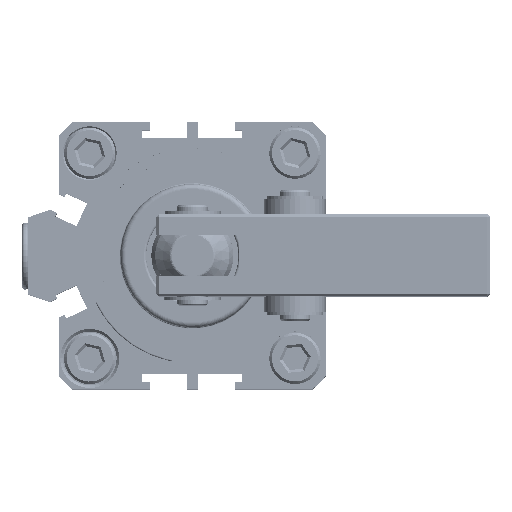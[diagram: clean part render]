
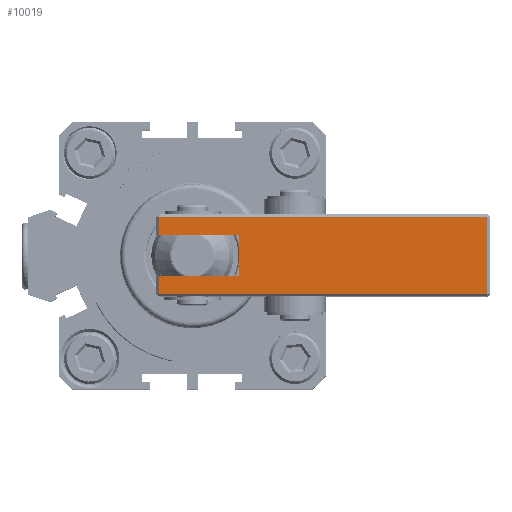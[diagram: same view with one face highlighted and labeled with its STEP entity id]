
A CAD part, top view. The second image highlights one B-rep face of the part: STEP entity #10019.
In plain terms, the highlighted planar face has unit normal (0, 0, 1).
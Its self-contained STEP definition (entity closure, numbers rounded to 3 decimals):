
#467=PLANE('',#11350);
#1439=FACE_OUTER_BOUND('',#2051,.T.);
#2051=EDGE_LOOP('',(#8772,#8773,#8774,#8775,#8776,#8777,#8778,#8779));
#2633=LINE('',#31511,#3276);
#2634=LINE('',#31514,#3277);
#2640=LINE('',#31524,#3283);
#2642=LINE('',#31529,#3285);
#2655=LINE('',#31556,#3298);
#2661=LINE('',#31567,#3304);
#2662=LINE('',#31570,#3305);
#2663=LINE('',#31571,#3306);
#3276=VECTOR('',#13793,1000.);
#3277=VECTOR('',#13796,1000.);
#3283=VECTOR('',#13806,1000.);
#3285=VECTOR('',#13810,1000.);
#3298=VECTOR('',#13833,1000.);
#3304=VECTOR('',#13841,1000.);
#3305=VECTOR('',#13846,1000.);
#3306=VECTOR('',#13847,1000.);
#4830=VERTEX_POINT('',#31476);
#4833=VERTEX_POINT('',#31483);
#4842=VERTEX_POINT('',#31513);
#4844=VERTEX_POINT('',#31522);
#4846=VERTEX_POINT('',#31528);
#4854=VERTEX_POINT('',#31554);
#4855=VERTEX_POINT('',#31555);
#4858=VERTEX_POINT('',#31563);
#6185=EDGE_CURVE('',#4833,#4830,#2633,.T.);
#6186=EDGE_CURVE('',#4830,#4842,#2634,.T.);
#6192=EDGE_CURVE('',#4844,#4833,#2640,.T.);
#6194=EDGE_CURVE('',#4842,#4846,#2642,.T.);
#6207=EDGE_CURVE('',#4854,#4855,#2655,.T.);
#6213=EDGE_CURVE('',#4846,#4858,#2661,.T.);
#6214=EDGE_CURVE('',#4854,#4858,#2662,.T.);
#6215=EDGE_CURVE('',#4855,#4844,#2663,.T.);
#8772=ORIENTED_EDGE('',*,*,#6207,.F.);
#8773=ORIENTED_EDGE('',*,*,#6214,.T.);
#8774=ORIENTED_EDGE('',*,*,#6213,.F.);
#8775=ORIENTED_EDGE('',*,*,#6194,.F.);
#8776=ORIENTED_EDGE('',*,*,#6186,.F.);
#8777=ORIENTED_EDGE('',*,*,#6185,.F.);
#8778=ORIENTED_EDGE('',*,*,#6192,.F.);
#8779=ORIENTED_EDGE('',*,*,#6215,.F.);
#10019=ADVANCED_FACE('',(#1439),#467,.F.);
#11350=AXIS2_PLACEMENT_3D('',#31569,#13844,#13845);
#13793=DIRECTION('',(-1.,0.,0.));
#13796=DIRECTION('',(0.,1.,0.));
#13806=DIRECTION('',(0.,-1.,0.));
#13810=DIRECTION('',(1.,0.,0.));
#13833=DIRECTION('',(0.,1.,0.));
#13841=DIRECTION('',(0.,1.,0.));
#13844=DIRECTION('center_axis',(0.,0.,
-1.));
#13845=DIRECTION('ref_axis',(1.,0.,0.));
#13846=DIRECTION('',(1.,0.,0.));
#13847=DIRECTION('',(1.,0.,0.));
#31476=CARTESIAN_POINT('',(-9.477,-9.616,-56.907));
#31483=CARTESIAN_POINT('',(54.523,-9.616,-56.907));
#31511=CARTESIAN_POINT('',(-9.977,-9.616,-56.907));
#31513=CARTESIAN_POINT('',(-9.477,-6.116,-56.907));
#31514=CARTESIAN_POINT('',(-9.477,-10.116,-56.907));
#31522=CARTESIAN_POINT('',(54.523,5.384,-56.907));
#31524=CARTESIAN_POINT('',(54.523,-10.116,-56.907));
#31528=CARTESIAN_POINT('',(6.023,-6.116,-56.907));
#31529=CARTESIAN_POINT('',(-9.977,-6.116,-56.907));
#31554=CARTESIAN_POINT('',(-9.477,1.884,-56.907));
#31555=CARTESIAN_POINT('',(-9.477,5.384,-56.907));
#31556=CARTESIAN_POINT('',(-9.477,-10.116,-56.907));
#31563=CARTESIAN_POINT('',(6.023,1.884,-56.907));
#31567=CARTESIAN_POINT('',(6.023,-10.116,-56.907));
#31569=CARTESIAN_POINT('Origin',(-9.977,-10.116,-56.907));
#31570=CARTESIAN_POINT('',(-17.689,1.884,-56.907));
#31571=CARTESIAN_POINT('',(-9.977,5.384,-56.907));
